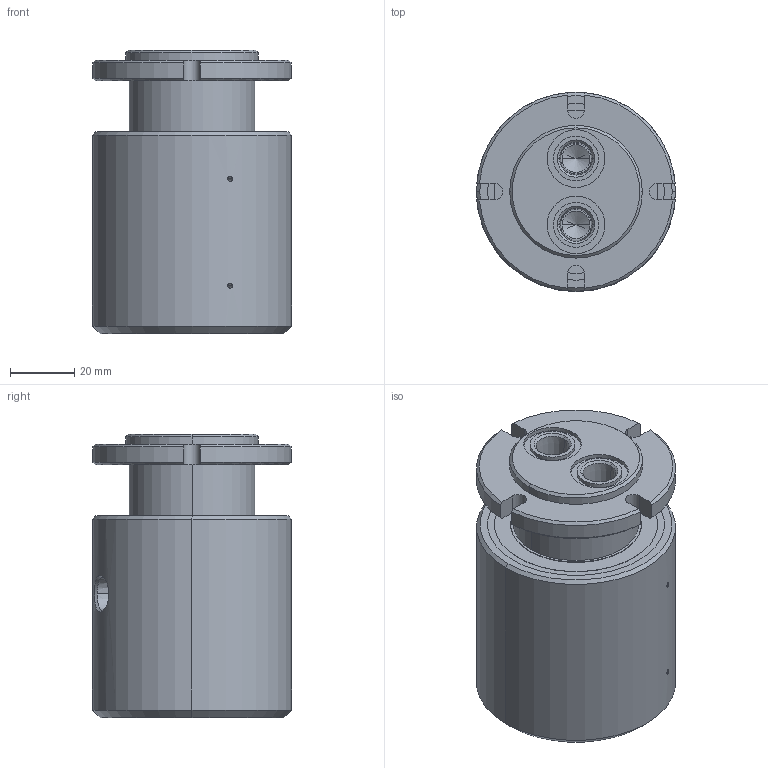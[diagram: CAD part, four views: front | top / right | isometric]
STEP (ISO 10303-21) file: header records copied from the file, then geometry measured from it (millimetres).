
FILE_DESCRIPTION (( 'STEP AP214' ), '1' );
FILE_NAME ('GP(M)-120.STEP', '2013-02-05T21:55:57', ( '' ), ( '' ), 'SwSTEP 2.0', 'SolidWorks 2011', '' );
FILE_SCHEMA (( 'AUTOMOTIVE_DESIGN' ));
Length unit declared in the file: inch
Products named in the file (1): GP(M)-120
Bounding box: 61.9 x 61.9 x 88.19 mm (x, y, z)
Volume: 221206.6 mm3; surface area: 28353.5 mm2
Topology: 1 solids, 1 shells, 156 faces, 370 edges, 226 vertices
Faces by surface type: cylinder 69, cone 46, plane 35, bspline 4, torus 2
Entity records: 5165 total; most frequent: CARTESIAN_POINT 1229, DIRECTION 790, ORIENTED_EDGE 700, EDGE_CURVE 350, AXIS2_PLACEMENT_3D 323, VERTEX_POINT 226, EDGE_LOOP 186, CIRCLE 170
